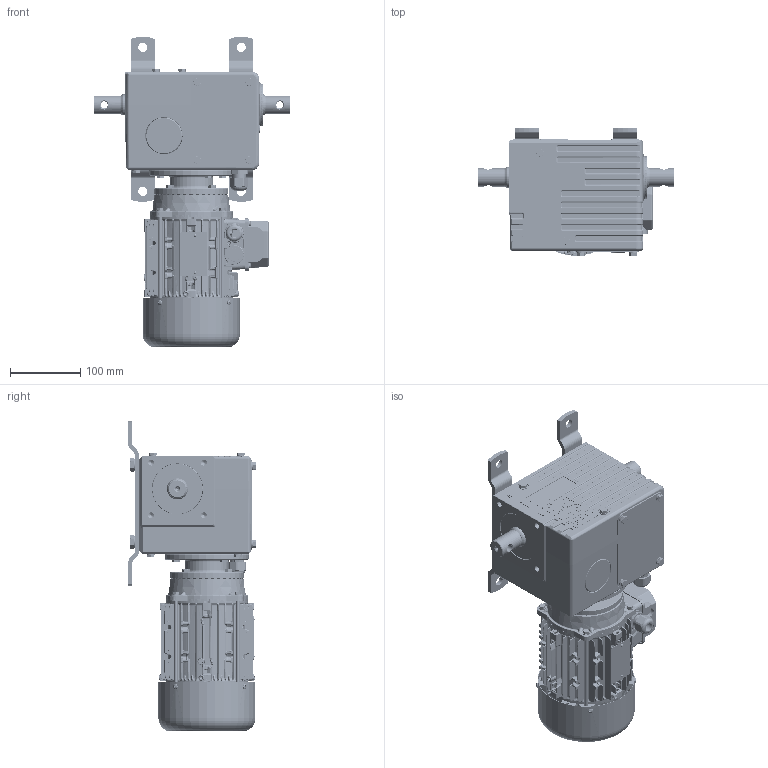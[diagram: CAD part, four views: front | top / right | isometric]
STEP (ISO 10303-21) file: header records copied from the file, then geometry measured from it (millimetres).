
FILE_DESCRIPTION (( 'STEP AP214' ), '1' );
FILE_NAME ('010203214_EWA_12_3D__DE_12212.2505.0616.STEP', '2022-09-28T13:50:16', ( '' ), ( '' ), 'SwSTEP 2.0', 'SolidWorks 2022', '' );
FILE_SCHEMA (( 'AUTOMOTIVE_DESIGN' ));
Length unit declared in the file: millimetre
Products named in the file (25): Scheibe_10002061; 010192906_EWA_12_3D-Modell_DE_10192906_END 20-90000.0002.6290 m.SB; Elektroteil_10001640; 010203214_EWA_12_3D__DE_12212.2505.0616; Verbindungselement_10057233; Schraube_10002078; 010200543_EWA_12_3D__DE; Deckel_10000048; 010202653__3D__DE_84102.0055.PM01; Montageplatte_10000170; Elektroteil_10028709; Wälzlager_10001868; Schraube_10028710; Dichtelement_10001203; Elektroteil_10001639; Dichtelement_10032469; Schraube_10014320; Elektroantrieb_EWA_10052452_ohne Inhalt; 010191515_Normteil_Kaufteil_3D-Modell_DE_10191515; Schraube_10018291; Kennzeichnung_10001854; 010200547_EWA_12_3D__DE_Ohne Inhalt; Dichtelement_10005476; 010194287_EWA_12_3D-Modell_DE_10194287; 010198258_EWA_3D-Modell_DE_10198258
Assembly tree (47 placements, depth 3):
  010203214_EWA_12_3D__DE_12212.2505.0616
    Elektroantrieb_EWA_10052452_ohne Inhalt
      010192906_EWA_12_3D-Modell_DE_10192906_END 20-90000.0002.6290 m.SB
      Montageplatte_10000170  x2
      Schraube_10028710  x4
      Dichtelement_10005476
      Dichtelement_10032469
      Elektroteil_10001639
      Elektroteil_10001640
      Elektroteil_10028709
      Deckel_10000048
      Scheibe_10002061  x8
      010191515_Normteil_Kaufteil_3D-Modell_DE_10191515  x4
      Wälzlager_10001868
      Schraube_10018291  x4
      010194287_EWA_12_3D-Modell_DE_10194287
      Dichtelement_10001203
    Schraube_10014320
    Schraube_10002078  x4
    Kennzeichnung_10001854
    010202653__3D__DE_84102.0055.PM01
    010200547_EWA_12_3D__DE_Ohne Inhalt
      010200543_EWA_12_3D__DE
      010198258_EWA_3D-Modell_DE_10198258
      Schraube_10002078  x4
  Verbindungselement_10057233
Bounding box: 280 x 181.5 x 441.62 mm (x, y, z)
Volume: 1968381.6 mm3; surface area: 961068.1 mm2
Topology: 93 solids, 96 shells, 12223 faces, 29418 edges, 17196 vertices
Faces by surface type: cylinder 3415, bspline 3348, plane 2863, torus 995, cone 837, sphere 765
Entity records: 756584 total; most frequent: CARTESIAN_POINT 409790, ORIENTED_EDGE 55536, DIRECTION 40873, EDGE_CURVE 27768, VERTEX_POINT 16432, AXIS2_PLACEMENT_3D 15686, EDGE_LOOP 12272, ADVANCED_FACE 11708
